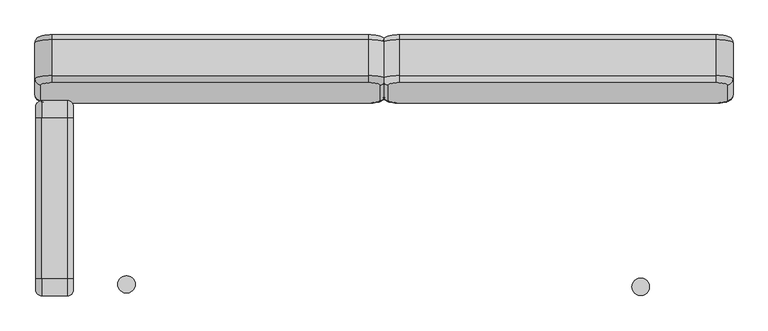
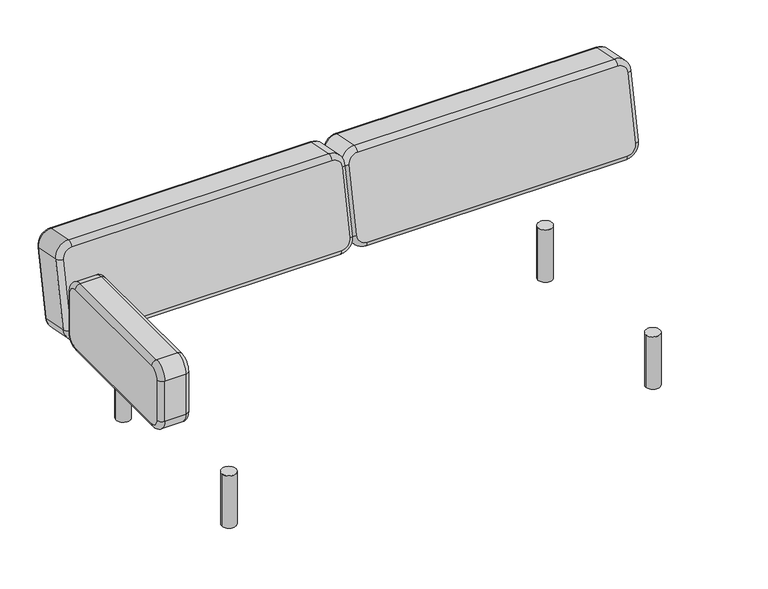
"""IFC4 building model written with IfcOpenShell, lengths in millimetres: furniture geometry, Fredericia - EJ220 Sofa 2 seater 100 - 2062 : Fredericia - EJ220 Sofa 2 seater 100 - 2062."""

from ifc_helpers import new_model, si_unit, point, frame, frame_2d, origin, origin_with_axes, place, context, project, spatial, circle_curve, ellipse_curve, trimmed, segment, composite_curve, outline, extrude, source, transform, mapped, element, save
from ifc_brep_helpers import plane_surface, cylinder_surface, revolved_surface, advanced_brep


def furniture_62b41049(model_context):
    return source(origin(), model_context, "Body", "SolidModel", [
        advanced_brep(
        [(-996.9649592, 110.2227341, 660.8530588), (-996.9649592, 570.2227341, 660.8530588), (-996.9649592, 602.8905541, 628.1852389), (-996.9649592, 602.8905541, 481.6311001), (-996.9649592, 570.2227341, 448.9632801), (-996.9649592, 110.2227341, 448.9632801), (-996.9649592, 77.5549142, 481.6311001), (-996.9649592, 77.5549142, 628.1852389), (-889.3010071, 570.2227341, 660.8530588), (-889.3010071, 110.2227341, 660.8530588), (-889.3010071, 77.5549142, 628.1852389), (-889.3010071, 77.5549142, 481.6311001), (-889.3010071, 110.2227341, 448.9632801), (-889.3010071, 570.2227341, 448.9632801), (-889.3010071, 602.8905541, 481.6311001), (-889.3010071, 602.8905541, 628.1852389), (-906.6443493, 570.2227341, 678.1852389), (-979.6376303, 570.2227341, 678.1852389), (-979.6376303, 110.2227341, 678.1852389), (-906.6443493, 110.2227341, 678.1852389), (-906.6443493, 60.2227341, 628.1852389), (-979.6376303, 60.2227341, 628.1852389), (-979.6376303, 60.2227341, 481.6311001), (-906.6443493, 60.2227341, 481.6311001), (-906.6443493, 110.2227341, 431.6311001), (-979.6376303, 110.2227341, 431.6311001), (-979.6376303, 570.2227341, 431.6311001), (-906.6443493, 570.2227341, 431.6311001), (-906.6443493, 620.2227341, 481.6311001), (-979.6376303, 620.2227341, 481.6311001), (-979.6376303, 620.2227341, 628.1852389), (-906.6443493, 620.2227341, 628.1852389)],
        [
            (0, 1),
            (1, 2, circle_curve(frame((-996.9649592, 570.2227341, 628.1852389), z_axis=(-1.0, 0.0, 0.0), x_axis=(0.0, 1.0, 0.0)), 32.6678199)),
            (2, 3),
            (3, 4, circle_curve(frame((-996.9649592, 570.2227341, 481.6311001), z_axis=(-1.0, 0.0, 0.0), x_axis=(0.0, 0.0, -1.0)), 32.6678199)),
            (4, 5),
            (5, 6, circle_curve(frame((-996.9649592, 110.2227341, 481.6311001), z_axis=(-1.0, 0.0, 0.0), x_axis=(0.0, -1.0, 0.0)), 32.6678199)),
            (6, 7),
            (7, 0, circle_curve(frame((-996.9649592, 110.2227341, 628.1852389), z_axis=(-1.0, 0.0, 0.0), x_axis=(0.0, 0.0, 1.0)), 32.6678199)),
            (8, 9),
            (9, 10, circle_curve(frame((-889.3010071, 110.2227341, 628.1852389), z_axis=(1.0, 0.0, 0.0), x_axis=(0.0, 0.0, 1.0)), 32.6678199)),
            (10, 11),
            (11, 12, circle_curve(frame((-889.3010071, 110.2227341, 481.6311001), z_axis=(1.0, 0.0, 0.0), x_axis=(0.0, -1.0, 0.0)), 32.6678199)),
            (12, 13),
            (13, 14, circle_curve(frame((-889.3010071, 570.2227341, 481.6311001), z_axis=(1.0, 0.0, 0.0), x_axis=(0.0, 0.0, -1.0)), 32.6678199)),
            (14, 15),
            (15, 8, circle_curve(frame((-889.3010071, 570.2227341, 628.1852389), z_axis=(1.0, 0.0, 0.0), x_axis=(0.0, 1.0, 0.0)), 32.6678199)),
            (16, 17),
            (17, 18),
            (18, 19),
            (19, 16),
            (20, 21),
            (21, 22),
            (22, 23),
            (23, 20),
            (24, 25),
            (25, 26),
            (26, 27),
            (27, 24),
            (28, 29),
            (29, 30),
            (30, 31),
            (31, 28),
            (17, 1, circle_curve(frame((-979.6376303, 570.2227341, 660.8530588), z_axis=(0.0, -1.0, 0.0), x_axis=(0.0, 0.0, -1.0)), 17.3321801)),
            (0, 18, circle_curve(frame((-979.6376303, 110.2227341, 660.8530588), z_axis=(0.0, 1.0, 0.0), x_axis=(0.0, 0.0, -1.0)), 17.3321801)),
            (19, 9, circle_curve(frame((-906.6443493, 110.2227341, 660.8530588), z_axis=(0.0, 1.0, 0.0), x_axis=(0.0, 0.0, -1.0)), 17.3321801)),
            (8, 16, circle_curve(frame((-906.6443493, 570.2227341, 660.8530588), z_axis=(0.0, -1.0, 0.0), x_axis=(0.0, 0.0, -1.0)), 17.3321801)),
            (21, 7, circle_curve(frame((-979.6376303, 77.5549142, 628.1852389), z_axis=(0.0, 0.0, -1.0), x_axis=(0.0, 1.0, 0.0)), 17.3321801)),
            (6, 22, circle_curve(frame((-979.6376303, 77.5549142, 481.6311001), z_axis=(0.0, 0.0, 1.0), x_axis=(0.0, 1.0, 0.0)), 17.3321801)),
            (23, 11, circle_curve(frame((-906.6443493, 77.5549142, 481.6311001), z_axis=(0.0, 0.0, 1.0), x_axis=(0.0, 1.0, 0.0)), 17.3321801)),
            (10, 20, circle_curve(frame((-906.6443493, 77.5549142, 628.1852389), z_axis=(0.0, 0.0, -1.0), x_axis=(0.0, 1.0, 0.0)), 17.3321801)),
            (25, 5, circle_curve(frame((-979.6376303, 110.2227341, 448.9632801), z_axis=(0.0, 1.0, 0.0), x_axis=(0.0, 0.0, 1.0)), 17.3321801)),
            (4, 26, circle_curve(frame((-979.6376303, 570.2227341, 448.9632801), z_axis=(0.0, -1.0, 0.0), x_axis=(0.0, 0.0, 1.0)), 17.3321801)),
            (27, 13, circle_curve(frame((-906.6443493, 570.2227341, 448.9632801), z_axis=(0.0, -1.0, 0.0), x_axis=(0.0, 0.0, 1.0)), 17.3321801)),
            (12, 24, circle_curve(frame((-906.6443493, 110.2227341, 448.9632801), z_axis=(0.0, 1.0, 0.0), x_axis=(0.0, 0.0, 1.0)), 17.3321801)),
            (29, 3, circle_curve(frame((-979.6376303, 602.8905541, 481.6311001), z_axis=(0.0, 0.0, 1.0), x_axis=(0.0, -1.0, 0.0)), 17.3321801)),
            (2, 30, circle_curve(frame((-979.6376303, 602.8905541, 628.1852389), z_axis=(0.0, 0.0, -1.0), x_axis=(0.0, -1.0, 0.0)), 17.3321801)),
            (31, 15, circle_curve(frame((-906.6443493, 602.8905541, 628.1852389), z_axis=(0.0, 0.0, -1.0), x_axis=(0.0, -1.0, 0.0)), 17.3321801)),
            (14, 28, circle_curve(frame((-906.6443493, 602.8905541, 481.6311001), z_axis=(0.0, 0.0, 1.0), x_axis=(0.0, -1.0, 0.0)), 17.3321801)),
            (17, 30, circle_curve(frame((-979.6376303, 570.2227341, 628.1852389), z_axis=(-1.0, 0.0, 0.0), x_axis=(0.0, 1.0, 0.0)), 50.0)),
            (16, 31, circle_curve(frame((-906.6443493, 570.2227341, 628.1852389), z_axis=(-1.0, 0.0, 0.0), x_axis=(0.0, 1.0, 0.0)), 50.0)),
            (21, 18, circle_curve(frame((-979.6376303, 110.2227341, 628.1852389), z_axis=(-1.0, 0.0, 0.0), x_axis=(0.0, 0.0, 1.0)), 50.0)),
            (20, 19, circle_curve(frame((-906.6443493, 110.2227341, 628.1852389), z_axis=(-1.0, 0.0, 0.0), x_axis=(0.0, 0.0, 1.0)), 50.0)),
            (25, 22, circle_curve(frame((-979.6376303, 110.2227341, 481.6311001), z_axis=(-1.0, 0.0, 0.0), x_axis=(0.0, -1.0, 0.0)), 50.0)),
            (24, 23, circle_curve(frame((-906.6443493, 110.2227341, 481.6311001), z_axis=(-1.0, 0.0, 0.0), x_axis=(0.0, -1.0, 0.0)), 50.0)),
            (29, 26, circle_curve(frame((-979.6376303, 570.2227341, 481.6311001), z_axis=(-1.0, 0.0, 0.0), x_axis=(0.0, 0.0, -1.0)), 50.0)),
            (28, 27, circle_curve(frame((-906.6443493, 570.2227341, 481.6311001), z_axis=(-1.0, 0.0, 0.0), x_axis=(0.0, 0.0, -1.0)), 50.0)),
        ],
        [
            plane_surface(frame((-996.9649592, 80.2227341, 34.6780204), z_axis=(-1.0, 0.0, 0.0), x_axis=(0.0, 0.0, 1.0))),
            plane_surface(frame((-889.3010071, 80.2227341, 34.6780204), z_axis=(1.0, 0.0, 0.0), x_axis=(0.0, 0.0, -1.0))),
            plane_surface(frame((-979.6376303, 570.2227341, 678.1852389), z_axis=(0.0, 0.0, 1.0), x_axis=(0.0, -1.0, 0.0))),
            plane_surface(frame((-979.6376303, 60.2227341, 628.1852389), z_axis=(0.0, -1.0, 0.0), x_axis=(0.0, 0.0, -1.0))),
            plane_surface(frame((-979.6376303, 110.2227341, 431.6311001), z_axis=(0.0, 0.0, -1.0), x_axis=(0.0, 1.0, 0.0))),
            plane_surface(frame((-979.6376303, 620.2227341, 481.6311001), z_axis=(0.0, 1.0, 0.0), x_axis=(0.0, 0.0, 1.0))),
            cylinder_surface(frame((-979.6376303, 570.2227341, 660.8530588), z_axis=(0.0, 1.0, 0.0), x_axis=(0.0, 0.0, -1.0)), 17.3321801),
            cylinder_surface(frame((-906.6443493, 570.2227341, 660.8530588), z_axis=(0.0, 1.0, 0.0), x_axis=(0.0, 0.0, -1.0)), 17.3321801),
            cylinder_surface(frame((-979.6376303, 77.5549142, 628.1852389), z_axis=(0.0, 0.0, 1.0), x_axis=(0.0, 1.0, 0.0)), 17.3321801),
            cylinder_surface(frame((-906.6443493, 77.5549142, 628.1852389), z_axis=(0.0, 0.0, 1.0), x_axis=(0.0, 1.0, 0.0)), 17.3321801),
            cylinder_surface(frame((-979.6376303, 110.2227341, 448.9632801), z_axis=(0.0, -1.0, 0.0), x_axis=(0.0, 0.0, 1.0)), 17.3321801),
            cylinder_surface(frame((-906.6443493, 110.2227341, 448.9632801), z_axis=(0.0, -1.0, 0.0), x_axis=(0.0, 0.0, 1.0)), 17.3321801),
            cylinder_surface(frame((-979.6376303, 602.8905541, 481.6311001), z_axis=(0.0, 0.0, -1.0), x_axis=(0.0, -1.0, 0.0)), 17.3321801),
            cylinder_surface(frame((-906.6443493, 602.8905541, 481.6311001), z_axis=(0.0, 0.0, -1.0), x_axis=(0.0, -1.0, 0.0)), 17.3321801),
            revolved_surface(trimmed(ellipse_curve(frame((-979.6376303, 602.8905541, 628.1852389), z_axis=(0.0, 0.0, -1.0), x_axis=(0.0, -1.0, 0.0)), 17.3321801, 17.3321801), [point((-996.9698104, 602.8905541, 628.1852389))], [point((-979.6376303, 620.2227341, 628.1852389))], True, "CARTESIAN"), (-812.2479775, 570.2227341, 628.1852389), (1.0, 0.0, 0.0)),
            cylinder_surface(frame((-812.2479775, 570.2227341, 628.1852389), z_axis=(1.0, 0.0, 0.0), x_axis=(0.0, 1.0, 0.0)), 50.0),
            revolved_surface(trimmed(ellipse_curve(frame((-906.6443493, 602.8905541, 628.1852389), z_axis=(0.0, 0.0, -1.0), x_axis=(0.0, -1.0, 0.0)), 17.3321801, 17.3321801), [point((-906.6443493, 620.2227341, 628.1852389))], [point((-889.3121693, 602.8905541, 628.1852389))], True, "CARTESIAN"), (-812.2479775, 570.2227341, 628.1852389), (1.0, 0.0, 0.0)),
            revolved_surface(trimmed(ellipse_curve(frame((-979.6376303, 110.2227341, 660.8530588), z_axis=(0.0, 1.0, 0.0), x_axis=(0.0, 0.0, -1.0)), 17.3321801, 17.3321801), [point((-996.9698104, 110.2227341, 660.8530588))], [point((-979.6376303, 110.2227341, 678.1852389))], True, "CARTESIAN"), (-812.2479775, 110.2227341, 628.1852389), (1.0, 0.0, 0.0)),
            cylinder_surface(frame((-812.2479775, 110.2227341, 628.1852389), z_axis=(1.0, 0.0, 0.0), x_axis=(0.0, 0.0, 1.0)), 50.0),
            revolved_surface(trimmed(ellipse_curve(frame((-906.6443493, 110.2227341, 660.8530588), z_axis=(0.0, 1.0, 0.0), x_axis=(0.0, 0.0, -1.0)), 17.3321801, 17.3321801), [point((-906.6443493, 110.2227341, 678.1852389))], [point((-889.3121693, 110.2227341, 660.8530588))], True, "CARTESIAN"), (-812.2479775, 110.2227341, 628.1852389), (1.0, 0.0, 0.0)),
            revolved_surface(trimmed(ellipse_curve(frame((-979.6376303, 77.5549142, 481.6311001), z_axis=(0.0, 0.0, 1.0), x_axis=(0.0, 1.0, 0.0)), 17.3321801, 17.3321801), [point((-996.9698104, 77.5549142, 481.6311001))], [point((-979.6376303, 60.2227341, 481.6311001))], True, "CARTESIAN"), (-812.2479775, 110.2227341, 481.6311001), (1.0, 0.0, 0.0)),
            cylinder_surface(frame((-812.2479775, 110.2227341, 481.6311001), z_axis=(1.0, 0.0, 0.0), x_axis=(0.0, -1.0, 0.0)), 50.0),
            revolved_surface(trimmed(ellipse_curve(frame((-906.6443493, 77.5549142, 481.6311001), z_axis=(0.0, 0.0, 1.0), x_axis=(0.0, 1.0, 0.0)), 17.3321801, 17.3321801), [point((-906.6443493, 60.2227341, 481.6311001))], [point((-889.3121693, 77.5549142, 481.6311001))], True, "CARTESIAN"), (-812.2479775, 110.2227341, 481.6311001), (1.0, 0.0, 0.0)),
            revolved_surface(trimmed(ellipse_curve(frame((-979.6376303, 570.2227341, 448.9632801), z_axis=(0.0, -1.0, 0.0), x_axis=(0.0, 0.0, 1.0)), 17.3321801, 17.3321801), [point((-996.9698104, 570.2227341, 448.9632801))], [point((-979.6376303, 570.2227341, 431.6311001))], True, "CARTESIAN"), (-812.2479775, 570.2227341, 481.6311001), (1.0, 0.0, 0.0)),
            cylinder_surface(frame((-812.2479775, 570.2227341, 481.6311001), z_axis=(1.0, 0.0, 0.0), x_axis=(0.0, 0.0, -1.0)), 50.0),
            revolved_surface(trimmed(ellipse_curve(frame((-906.6443493, 570.2227341, 448.9632801), z_axis=(0.0, -1.0, 0.0), x_axis=(0.0, 0.0, 1.0)), 17.3321801, 17.3321801), [point((-906.6443493, 570.2227341, 431.6311001))], [point((-889.3121693, 570.2227341, 448.9632801))], True, "CARTESIAN"), (-812.2479775, 570.2227341, 481.6311001), (1.0, 0.0, 0.0)),
        ],
        [
            (0, [[1, 2, 3, 4, 5, 6, 7, 8]]),
            (1, [[9, 10, 11, 12, 13, 14, 15, 16]]),
            (2, [[17, 18, 19, 20]]),
            (3, [[21, 22, 23, 24]]),
            (4, [[25, 26, 27, 28]]),
            (5, [[29, 30, 31, 32]]),
            (6, [[-18, 33, -1, 34]]),
            (7, [[-20, 35, -9, 36]]),
            (8, [[-22, 37, -7, 38]]),
            (9, [[-24, 39, -11, 40]]),
            (10, [[-26, 41, -5, 42]]),
            (11, [[-28, 43, -13, 44]]),
            (12, [[-30, 45, -3, 46]]),
            (13, [[-32, 47, -15, 48]]),
            (14, [[-33, 49, -46, -2]]),
            (15, [[-17, 50, -31, -49]]),
            (16, [[-36, -16, -47, -50]]),
            (17, [[-34, -8, -37, 51]]),
            (18, [[-19, -51, -21, 52]]),
            (19, [[-35, -52, -40, -10]]),
            (20, [[-38, -6, -41, 53]]),
            (21, [[-23, -53, -25, 54]]),
            (22, [[-39, -54, -44, -12]]),
            (23, [[-42, -4, -45, 55]]),
            (24, [[-27, -55, -29, 56]]),
            (25, [[-43, -56, -48, -14]]),
        ],
    ),
        advanced_brep(
        [(982.2998936, 619.8100699, 478.8361951), (982.2998936, 664.9135782, 710.8736296), (949.6320736, 671.1468921, 742.9412497), (45.0, 671.1468921, 742.9412497), (12.3321801, 664.9135782, 710.8736296), (12.3321801, 619.8100699, 478.8361951), (45.0, 613.576756, 446.7685751), (949.6320736, 613.576756, 446.7685751), (982.2998936, 802.1658592, 684.1944888), (982.2998936, 757.062351, 452.1570543), (949.6320736, 750.8290371, 420.0894343), (45.0, 750.8290371, 420.0894343), (12.3321801, 757.062351, 452.1570543), (12.3321801, 802.1658592, 684.1944888), (45.0, 808.3991731, 716.2621088), (949.6320736, 808.3991731, 716.2621088), (999.6320736, 636.819047, 475.5299849), (999.6320736, 740.0486118, 455.4641902), (999.6320736, 785.1521201, 687.5016246), (999.6320736, 681.9225552, 707.5674194), (949.6320736, 691.463005, 756.6487785), (949.6320736, 794.6925699, 736.5829838), (45.0, 794.6925699, 736.5829838), (45.0, 691.463005, 756.6487785), (-5.0, 681.9225552, 707.5674194), (-5.0, 785.1521201, 687.5016246), (-5.0, 740.0486118, 455.4641902), (-5.0, 636.819047, 475.5299849), (45.0, 627.2785972, 426.4486258), (45.0, 730.5081621, 406.382831), (949.6320736, 730.5081621, 406.382831), (949.6320736, 627.2785972, 426.4486258)],
        [
            (0, 1),
            (1, 2, circle_curve(frame((949.6320736, 664.9135782, 710.8736296), z_axis=(0.0, -0.9816271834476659, 0.1908089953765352), x_axis=(1.0, 0.0, 0.0)), 32.6678199)),
            (2, 3),
            (3, 4, circle_curve(frame((45.0, 664.9135782, 710.8736296), z_axis=(0.0, -0.9816271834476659, 0.1908089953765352), x_axis=(0.0, 0.1908089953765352, 0.9816271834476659)), 32.6678199)),
            (4, 5),
            (5, 6, circle_curve(frame((45.0, 619.8100699, 478.8361951), z_axis=(0.0, -0.9816271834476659, 0.1908089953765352), x_axis=(-1.0, 0.0, 0.0)), 32.6678199)),
            (6, 7),
            (7, 0, circle_curve(frame((949.6320736, 619.8100699, 478.8361951), z_axis=(0.0, -0.9816271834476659, 0.1908089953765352), x_axis=(0.0, -0.1908089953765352, -0.9816271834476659)), 32.6678199)),
            (8, 9),
            (9, 10, circle_curve(frame((949.6320736, 757.062351, 452.1570543), z_axis=(0.0, 0.9816271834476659, -0.1908089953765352), x_axis=(0.0, -0.1908089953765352, -0.9816271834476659)), 32.6678199)),
            (10, 11),
            (11, 12, circle_curve(frame((45.0, 757.062351, 452.1570543), z_axis=(0.0, 0.9816271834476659, -0.1908089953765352), x_axis=(-1.0, 0.0, 0.0)), 32.6678199)),
            (12, 13),
            (13, 14, circle_curve(frame((45.0, 802.1658592, 684.1944888), z_axis=(0.0, 0.9816271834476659, -0.1908089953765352), x_axis=(0.0, 0.1908089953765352, 0.9816271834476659)), 32.6678199)),
            (14, 15),
            (15, 8, circle_curve(frame((949.6320736, 802.1658592, 684.1944888), z_axis=(0.0, 0.9816271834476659, -0.1908089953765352), x_axis=(1.0, 0.0, 0.0)), 32.6678199)),
            (16, 17),
            (17, 18),
            (18, 19),
            (19, 16),
            (20, 21),
            (21, 22),
            (22, 23),
            (23, 20),
            (24, 25),
            (25, 26),
            (26, 27),
            (27, 24),
            (28, 29),
            (29, 30),
            (30, 31),
            (31, 28),
            (19, 1, circle_curve(frame((982.2998936, 681.9225552, 707.5674194), z_axis=(0.0, -0.19080899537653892, -0.9816271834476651), x_axis=(-1.0, 0.0, 0.0)), 17.3321801)),
            (0, 16, circle_curve(frame((982.2998936, 636.819047, 475.5299849), z_axis=(0.0, 0.19080899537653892, 0.9816271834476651), x_axis=(-1.0, 0.0, 0.0)), 17.3321801)),
            (17, 9, circle_curve(frame((982.2998936, 740.0486118, 455.4641902), z_axis=(0.0, 0.19080899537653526, 0.981627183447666), x_axis=(-1.0, 0.0, 0.0)), 17.3321801)),
            (8, 18, circle_curve(frame((982.2998936, 785.1521201, 687.5016246), z_axis=(0.0, -0.19080899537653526, -0.981627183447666), x_axis=(-1.0, 0.0, 0.0)), 17.3321801)),
            (23, 3, circle_curve(frame((45.0, 688.1558691, 739.6350394), z_axis=(1.0, 0.0, 0.0), x_axis=(0.0, -0.1908089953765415, -0.9816271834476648)), 17.3321801)),
            (2, 20, circle_curve(frame((949.6320736, 688.1558691, 739.6350394), z_axis=(-1.0, 0.0, 0.0), x_axis=(0.0, -0.1908089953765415, -0.9816271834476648)), 17.3321801)),
            (21, 15, circle_curve(frame((949.6320736, 791.385434, 719.5692447), z_axis=(-1.0, 0.0, 0.0), x_axis=(0.0, -0.1908089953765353, -0.9816271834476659)), 17.3321801)),
            (14, 22, circle_curve(frame((45.0, 791.385434, 719.5692447), z_axis=(1.0, 0.0, 0.0), x_axis=(0.0, -0.1908089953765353, -0.9816271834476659)), 17.3321801)),
            (27, 5, circle_curve(frame((12.3321801, 636.819047, 475.5299849), z_axis=(0.0, 0.19080899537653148, 0.9816271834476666), x_axis=(1.0, 0.0, 0.0)), 17.3321801)),
            (4, 24, circle_curve(frame((12.3321801, 681.9225552, 707.5674194), z_axis=(0.0, -0.19080899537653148, -0.9816271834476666), x_axis=(1.0, 0.0, 0.0)), 17.3321801)),
            (25, 13, circle_curve(frame((12.3321801, 785.1521201, 687.5016246), z_axis=(0.0, -0.1908089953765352, -0.9816271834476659), x_axis=(1.0, 0.0, 0.0)), 17.3321801)),
            (12, 26, circle_curve(frame((12.3321801, 740.0486118, 455.4641902), z_axis=(0.0, 0.1908089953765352, 0.9816271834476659), x_axis=(1.0, 0.0, 0.0)), 17.3321801)),
            (31, 7, circle_curve(frame((949.6320736, 630.585733, 443.4623649), z_axis=(-1.0, 0.0, 0.0), x_axis=(0.0, 0.19080899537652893, 0.9816271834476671)), 17.3321801)),
            (6, 28, circle_curve(frame((45.0, 630.585733, 443.4623649), z_axis=(1.0, 0.0, 0.0), x_axis=(0.0, 0.19080899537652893, 0.9816271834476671)), 17.3321801)),
            (29, 11, circle_curve(frame((45.0, 733.8152979, 423.3965701), z_axis=(1.0, 0.0, 0.0), x_axis=(0.0, 0.1908089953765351, 0.9816271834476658)), 17.3321801)),
            (10, 30, circle_curve(frame((949.6320736, 733.8152979, 423.3965701), z_axis=(-1.0, 0.0, 0.0), x_axis=(0.0, 0.1908089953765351, 0.9816271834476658)), 17.3321801)),
            (31, 16, circle_curve(frame((949.6320736, 636.819047, 475.5299849), z_axis=(0.0, -0.9816271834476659, 0.1908089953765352), x_axis=(0.0, -0.1908089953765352, -0.9816271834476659)), 50.0)),
            (30, 17, circle_curve(frame((949.6320736, 740.0486118, 455.4641902), z_axis=(0.0, -0.9816271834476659, 0.1908089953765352), x_axis=(0.0, -0.1908089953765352, -0.9816271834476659)), 50.0)),
            (19, 20, circle_curve(frame((949.6320736, 681.9225552, 707.5674194), z_axis=(0.0, -0.9816271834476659, 0.1908089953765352), x_axis=(1.0, 0.0, 0.0)), 50.0)),
            (18, 21, circle_curve(frame((949.6320736, 785.1521201, 687.5016246), z_axis=(0.0, -0.9816271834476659, 0.1908089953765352), x_axis=(1.0, 0.0, 0.0)), 50.0)),
            (23, 24, circle_curve(frame((45.0, 681.9225552, 707.5674194), z_axis=(0.0, -0.9816271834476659, 0.1908089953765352), x_axis=(0.0, 0.1908089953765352, 0.9816271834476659)), 50.0)),
            (22, 25, circle_curve(frame((45.0, 785.1521201, 687.5016246), z_axis=(0.0, -0.9816271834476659, 0.1908089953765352), x_axis=(0.0, 0.1908089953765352, 0.9816271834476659)), 50.0)),
            (27, 28, circle_curve(frame((45.0, 636.819047, 475.5299849), z_axis=(0.0, -0.9816271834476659, 0.1908089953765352), x_axis=(-1.0, 0.0, 0.0)), 50.0)),
            (26, 29, circle_curve(frame((45.0, 740.0486118, 455.4641902), z_axis=(0.0, -0.9816271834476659, 0.1908089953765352), x_axis=(-1.0, 0.0, 0.0)), 50.0)),
        ],
        [
            plane_surface(frame((919.6320736, 664.9135782, 710.8736296), z_axis=(0.0, -0.9816271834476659, 0.19080899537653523), x_axis=(0.0, -0.19080899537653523, -0.9816271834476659))),
            plane_surface(frame((919.6320736, 802.1658592, 684.1944888), z_axis=(0.0, 0.9816271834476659, -0.19080899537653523), x_axis=(0.0, 0.19080899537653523, 0.9816271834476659))),
            plane_surface(frame((999.6320736, 740.0486118, 455.4641902), z_axis=(1.0, 0.0, 0.0), x_axis=(0.0, 0.1908089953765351, 0.9816271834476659))),
            plane_surface(frame((949.6320736, 794.6925699, 736.5829838), z_axis=(0.0, 0.19080899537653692, 0.9816271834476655), x_axis=(-1.0, 0.0, 0.0))),
            plane_surface(frame((-5.0, 785.1521201, 687.5016246), z_axis=(-1.0000000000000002, 0.0, 0.0), x_axis=(0.0, -0.19080899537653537, -0.9816271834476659))),
            plane_surface(frame((45.0, 730.5081621, 406.382831), z_axis=(0.0, -0.19080899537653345, -0.9816271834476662), x_axis=(1.0, 0.0, 0.0))),
            cylinder_surface(frame((982.2998936, 636.819047, 475.5299849), z_axis=(0.0, -0.19080899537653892, -0.9816271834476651), x_axis=(-1.0, 0.0, 0.0)), 17.3321801),
            cylinder_surface(frame((982.2998936, 740.0486118, 455.4641902), z_axis=(0.0, -0.1908089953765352, -0.9816271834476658), x_axis=(-1.0, 0.0, 0.0)), 17.3321801),
            cylinder_surface(frame((949.6320736, 688.1558691, 739.6350394), z_axis=(1.0000000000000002, 0.0, 0.0), x_axis=(0.0, -0.1908089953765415, -0.9816271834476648)), 17.3321801),
            cylinder_surface(frame((949.6320736, 791.385434, 719.5692447), z_axis=(1.0000000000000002, 0.0, 0.0), x_axis=(0.0, -0.1908089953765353, -0.9816271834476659)), 17.3321801),
            cylinder_surface(frame((12.3321801, 681.9225552, 707.5674194), z_axis=(0.0, 0.19080899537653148, 0.9816271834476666), x_axis=(1.0, 0.0, 0.0)), 17.3321801),
            cylinder_surface(frame((12.3321801, 785.1521201, 687.5016246), z_axis=(0.0, 0.1908089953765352, 0.9816271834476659), x_axis=(1.0, 0.0, 0.0)), 17.3321801),
            cylinder_surface(frame((45.0, 630.585733, 443.4623649), z_axis=(-1.0000000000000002, 0.0, 0.0), x_axis=(0.0, 0.19080899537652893, 0.9816271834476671)), 17.3321801),
            cylinder_surface(frame((45.0, 733.8152979, 423.3965701), z_axis=(-0.9999999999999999, 0.0, 0.0), x_axis=(0.0, 0.1908089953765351, 0.9816271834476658)), 17.3321801),
            revolved_surface(trimmed(ellipse_curve(frame((949.6320736, 630.585733, 443.4623649), z_axis=(-1.0000000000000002, 0.0, 0.0), x_axis=(0.0, 0.19080899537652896, 0.9816271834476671)), 17.3321801, 17.3321801), [point((949.6320736, 627.2785972, 426.4486258))], [point((949.6320736, 613.5719939, 446.7695007))], True, "CARTESIAN"), (949.6320736, 801.1332803, 443.5905334), (0.0, -0.9816271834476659, 0.1908089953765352)),
            cylinder_surface(frame((949.6320736, 801.1332803, 443.5905334), z_axis=(0.0, -0.9816271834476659, 0.1908089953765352), x_axis=(0.0, -0.1908089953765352, -0.9816271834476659)), 50.0),
            revolved_surface(trimmed(ellipse_curve(frame((949.6320736, 733.8152979, 423.3965701), z_axis=(-1.0000000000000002, 0.0, 0.0), x_axis=(0.0, 0.19080899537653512, 0.9816271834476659)), 17.3321801, 17.3321801), [point((949.6320736, 750.8290371, 420.0894343))], [point((949.6320736, 730.5081621, 406.382831))], True, "CARTESIAN"), (949.6320736, 801.1332803, 443.5905334), (0.0, -0.9816271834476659, 0.1908089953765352)),
            revolved_surface(trimmed(ellipse_curve(frame((982.2998936, 681.9225552, 707.5674194), z_axis=(0.0, -0.19080899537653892, -0.9816271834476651), x_axis=(-1.0, 0.0, 0.0)), 17.3321801, 17.3321801), [point((999.6320736, 681.9225552, 707.5674194))], [point((982.2998936, 664.9088161, 710.8745552))], True, "CARTESIAN"), (949.6320736, 846.2367886, 675.6279679), (0.0, -0.9816271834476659, 0.1908089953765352)),
            cylinder_surface(frame((949.6320736, 846.2367886, 675.6279679), z_axis=(0.0, -0.9816271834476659, 0.1908089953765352), x_axis=(1.0, 0.0, 0.0)), 50.0),
            revolved_surface(trimmed(ellipse_curve(frame((982.2998936, 785.1521201, 687.5016246), z_axis=(0.0, -0.19080899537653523, -0.9816271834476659), x_axis=(-1.0, 0.0, 0.0)), 17.3321801, 17.3321801), [point((982.2998936, 802.1658592, 684.1944888))], [point((999.6320736, 785.1521201, 687.5016246))], True, "CARTESIAN"), (949.6320736, 846.2367886, 675.6279679), (0.0, -0.9816271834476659, 0.1908089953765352)),
            revolved_surface(trimmed(ellipse_curve(frame((45.0, 688.1558691, 739.6350394), z_axis=(1.0000000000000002, 0.0, 0.0), x_axis=(0.0, -0.19080899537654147, -0.9816271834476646)), 17.3321801, 17.3321801), [point((45.0, 691.463005, 756.6487785))], [point((45.0, 671.14213, 742.9421753))], True, "CARTESIAN"), (45.0, 846.2367886, 675.6279679), (0.0, -0.9816271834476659, 0.1908089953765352)),
            cylinder_surface(frame((45.0, 846.2367886, 675.6279679), z_axis=(0.0, -0.9816271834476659, 0.1908089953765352), x_axis=(0.0, 0.1908089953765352, 0.9816271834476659)), 50.0),
            revolved_surface(trimmed(ellipse_curve(frame((45.0, 791.385434, 719.5692447), z_axis=(1.0000000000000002, 0.0, 0.0), x_axis=(0.0, -0.19080899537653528, -0.9816271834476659)), 17.3321801, 17.3321801), [point((45.0, 808.3991731, 716.2621088))], [point((45.0, 794.6925699, 736.5829838))], True, "CARTESIAN"), (45.0, 846.2367886, 675.6279679), (0.0, -0.9816271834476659, 0.1908089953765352)),
            revolved_surface(trimmed(ellipse_curve(frame((12.3321801, 636.819047, 475.5299849), z_axis=(0.0, 0.19080899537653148, 0.9816271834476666), x_axis=(1.0, 0.0, 0.0)), 17.3321801, 17.3321801), [point((-5.0, 636.819047, 475.5299849))], [point((12.3321801, 619.8053078, 478.8371208))], True, "CARTESIAN"), (45.0, 801.1332803, 443.5905334), (0.0, -0.9816271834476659, 0.1908089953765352)),
            cylinder_surface(frame((45.0, 801.1332803, 443.5905334), z_axis=(0.0, -0.9816271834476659, 0.1908089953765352), x_axis=(-1.0, 0.0, 0.0)), 50.0),
            revolved_surface(trimmed(ellipse_curve(frame((12.3321801, 740.0486118, 455.4641902), z_axis=(0.0, 0.1908089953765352, 0.9816271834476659), x_axis=(1.0, 0.0, 0.0)), 17.3321801, 17.3321801), [point((12.3321801, 757.062351, 452.1570543))], [point((-5.0, 740.0486118, 455.4641902))], True, "CARTESIAN"), (45.0, 801.1332803, 443.5905334), (0.0, -0.9816271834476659, 0.1908089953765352)),
        ],
        [
            (0, [[1, 2, 3, 4, 5, 6, 7, 8]]),
            (1, [[9, 10, 11, 12, 13, 14, 15, 16]]),
            (2, [[17, 18, 19, 20]]),
            (3, [[21, 22, 23, 24]]),
            (4, [[25, 26, 27, 28]]),
            (5, [[29, 30, 31, 32]]),
            (6, [[-20, 33, -1, 34]]),
            (7, [[-18, 35, -9, 36]]),
            (8, [[-24, 37, -3, 38]]),
            (9, [[-22, 39, -15, 40]]),
            (10, [[-28, 41, -5, 42]]),
            (11, [[-26, 43, -13, 44]]),
            (12, [[-32, 45, -7, 46]]),
            (13, [[-30, 47, -11, 48]]),
            (14, [[-34, -8, -45, 49]]),
            (15, [[-17, -49, -31, 50]]),
            (16, [[-35, -50, -48, -10]]),
            (17, [[-33, 51, -38, -2]]),
            (18, [[-19, 52, -21, -51]]),
            (19, [[-36, -16, -39, -52]]),
            (20, [[-37, 53, -42, -4]]),
            (21, [[-23, 54, -25, -53]]),
            (22, [[-40, -14, -43, -54]]),
            (23, [[-41, 55, -46, -6]]),
            (24, [[-27, 56, -29, -55]]),
            (25, [[-44, -12, -47, -56]]),
        ],
    ),
        advanced_brep(
        [(-982.2998936, 664.9135782, 710.8736296), (-982.2998936, 619.8100699, 478.8361951), (-949.6320736, 613.576756, 446.7685751), (-45.0, 613.576756, 446.7685751), (-12.3321801, 619.8100699, 478.8361951), (-12.3321801, 664.9135782, 710.8736296), (-45.0, 671.1468921, 742.9412497), (-949.6320736, 671.1468921, 742.9412497), (-982.2998936, 757.062351, 452.1570543), (-982.2998936, 802.1658592, 684.1944888), (-949.6320736, 808.3991731, 716.2621088), (-45.0, 808.3991731, 716.2621088), (-12.3321801, 802.1658592, 684.1944888), (-12.3321801, 757.062351, 452.1570543), (-45.0, 750.8290371, 420.0894343), (-949.6320736, 750.8290371, 420.0894343), (-999.6320736, 740.0486118, 455.4641902), (-999.6320736, 636.819047, 475.5299849), (-999.6320736, 681.9225552, 707.5674194), (-999.6320736, 785.1521201, 687.5016246), (-949.6320736, 794.6925699, 736.5829838), (-949.6320736, 691.463005, 756.6487785), (-45.0, 691.463005, 756.6487785), (-45.0, 794.6925699, 736.5829838), (5.0, 785.1521201, 687.5016246), (5.0, 681.9225552, 707.5674194), (5.0, 636.819047, 475.5299849), (5.0, 740.0486118, 455.4641902), (-45.0, 730.5081621, 406.382831), (-45.0, 627.2785972, 426.4486258), (-949.6320736, 627.2785972, 426.4486258), (-949.6320736, 730.5081621, 406.382831)],
        [
            (0, 1),
            (1, 2, circle_curve(frame((-949.6320736, 619.8100699, 478.8361951), z_axis=(0.0, -0.9816271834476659, 0.1908089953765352), x_axis=(0.0, -0.1908089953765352, -0.9816271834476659)), 32.6678199)),
            (2, 3),
            (3, 4, circle_curve(frame((-45.0, 619.8100699, 478.8361951), z_axis=(0.0, -0.9816271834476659, 0.1908089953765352), x_axis=(1.0, 0.0, 0.0)), 32.6678199)),
            (4, 5),
            (5, 6, circle_curve(frame((-45.0, 664.9135782, 710.8736296), z_axis=(0.0, -0.9816271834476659, 0.1908089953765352), x_axis=(0.0, 0.1908089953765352, 0.9816271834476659)), 32.6678199)),
            (6, 7),
            (7, 0, circle_curve(frame((-949.6320736, 664.9135782, 710.8736296), z_axis=(0.0, -0.9816271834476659, 0.1908089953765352), x_axis=(-1.0, 0.0, 0.0)), 32.6678199)),
            (8, 9),
            (9, 10, circle_curve(frame((-949.6320736, 802.1658592, 684.1944888), z_axis=(0.0, 0.9816271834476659, -0.1908089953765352), x_axis=(-1.0, 0.0, 0.0)), 32.6678199)),
            (10, 11),
            (11, 12, circle_curve(frame((-45.0, 802.1658592, 684.1944888), z_axis=(0.0, 0.9816271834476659, -0.1908089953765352), x_axis=(0.0, 0.1908089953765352, 0.9816271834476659)), 32.6678199)),
            (12, 13),
            (13, 14, circle_curve(frame((-45.0, 757.062351, 452.1570543), z_axis=(0.0, 0.9816271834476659, -0.1908089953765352), x_axis=(1.0, 0.0, 0.0)), 32.6678199)),
            (14, 15),
            (15, 8, circle_curve(frame((-949.6320736, 757.062351, 452.1570543), z_axis=(0.0, 0.9816271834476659, -0.1908089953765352), x_axis=(0.0, -0.1908089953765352, -0.9816271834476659)), 32.6678199)),
            (16, 17),
            (17, 18),
            (18, 19),
            (19, 16),
            (20, 21),
            (21, 22),
            (22, 23),
            (23, 20),
            (24, 25),
            (25, 26),
            (26, 27),
            (27, 24),
            (28, 29),
            (29, 30),
            (30, 31),
            (31, 28),
            (17, 1, circle_curve(frame((-982.2998936, 636.819047, 475.5299849), z_axis=(0.0, 0.19080899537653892, 0.9816271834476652), x_axis=(1.0, 0.0, 0.0)), 17.3321801)),
            (0, 18, circle_curve(frame((-982.2998936, 681.9225552, 707.5674194), z_axis=(0.0, -0.19080899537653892, -0.9816271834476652), x_axis=(1.0, 0.0, 0.0)), 17.3321801)),
            (19, 9, circle_curve(frame((-982.2998936, 785.1521201, 687.5016246), z_axis=(0.0, -0.19080899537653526, -0.981627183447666), x_axis=(1.0, 0.0, 0.0)), 17.3321801)),
            (8, 16, circle_curve(frame((-982.2998936, 740.0486118, 455.4641902), z_axis=(0.0, 0.19080899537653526, 0.981627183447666), x_axis=(1.0, 0.0, 0.0)), 17.3321801)),
            (21, 7, circle_curve(frame((-949.6320736, 688.1558691, 739.6350394), z_axis=(1.0, 0.0, 0.0), x_axis=(0.0, -0.19080899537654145, -0.9816271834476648)), 17.3321801)),
            (6, 22, circle_curve(frame((-45.0, 688.1558691, 739.6350394), z_axis=(-1.0, 0.0, 0.0), x_axis=(0.0, -0.19080899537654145, -0.9816271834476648)), 17.3321801)),
            (23, 11, circle_curve(frame((-45.0, 791.385434, 719.5692447), z_axis=(-1.0, 0.0, 0.0), x_axis=(0.0, -0.19080899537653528, -0.9816271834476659)), 17.3321801)),
            (10, 20, circle_curve(frame((-949.6320736, 791.385434, 719.5692447), z_axis=(1.0, 0.0, 0.0), x_axis=(0.0, -0.19080899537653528, -0.9816271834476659)), 17.3321801)),
            (25, 5, circle_curve(frame((-12.3321801, 681.9225552, 707.5674194), z_axis=(0.0, -0.19080899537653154, -0.9816271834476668), x_axis=(-1.0, 0.0, 0.0)), 17.3321801)),
            (4, 26, circle_curve(frame((-12.3321801, 636.819047, 475.5299849), z_axis=(0.0, 0.19080899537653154, 0.9816271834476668), x_axis=(-1.0, 0.0, 0.0)), 17.3321801)),
            (27, 13, circle_curve(frame((-12.3321801, 740.0486118, 455.4641902), z_axis=(0.0, 0.1908089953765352, 0.981627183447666), x_axis=(-1.0, 0.0, 0.0)), 17.3321801)),
            (12, 24, circle_curve(frame((-12.3321801, 785.1521201, 687.5016246), z_axis=(0.0, -0.1908089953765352, -0.981627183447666), x_axis=(-1.0, 0.0, 0.0)), 17.3321801)),
            (29, 3, circle_curve(frame((-45.0, 630.585733, 443.4623649), z_axis=(-1.0, 0.0, 0.0), x_axis=(0.0, 0.19080899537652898, 0.9816271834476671)), 17.3321801)),
            (2, 30, circle_curve(frame((-949.6320736, 630.585733, 443.4623649), z_axis=(1.0, 0.0, 0.0), x_axis=(0.0, 0.19080899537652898, 0.9816271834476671)), 17.3321801)),
            (31, 15, circle_curve(frame((-949.6320736, 733.8152979, 423.3965701), z_axis=(1.0, 0.0, 0.0), x_axis=(0.0, 0.19080899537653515, 0.9816271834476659)), 17.3321801)),
            (14, 28, circle_curve(frame((-45.0, 733.8152979, 423.3965701), z_axis=(-1.0, 0.0, 0.0), x_axis=(0.0, 0.19080899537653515, 0.9816271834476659)), 17.3321801)),
            (17, 30, circle_curve(frame((-949.6320736, 636.819047, 475.5299849), z_axis=(0.0, -0.9816271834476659, 0.1908089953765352), x_axis=(0.0, -0.1908089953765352, -0.9816271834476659)), 50.0)),
            (16, 31, circle_curve(frame((-949.6320736, 740.0486118, 455.4641902), z_axis=(0.0, -0.9816271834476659, 0.1908089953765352), x_axis=(0.0, -0.1908089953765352, -0.9816271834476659)), 50.0)),
            (21, 18, circle_curve(frame((-949.6320736, 681.9225552, 707.5674194), z_axis=(0.0, -0.9816271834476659, 0.1908089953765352), x_axis=(-1.0, 0.0, 0.0)), 50.0)),
            (20, 19, circle_curve(frame((-949.6320736, 785.1521201, 687.5016246), z_axis=(0.0, -0.9816271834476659, 0.1908089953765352), x_axis=(-1.0, 0.0, 0.0)), 50.0)),
            (25, 22, circle_curve(frame((-45.0, 681.9225552, 707.5674194), z_axis=(0.0, -0.9816271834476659, 0.1908089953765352), x_axis=(0.0, 0.1908089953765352, 0.9816271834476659)), 50.0)),
            (24, 23, circle_curve(frame((-45.0, 785.1521201, 687.5016246), z_axis=(0.0, -0.9816271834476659, 0.1908089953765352), x_axis=(0.0, 0.1908089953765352, 0.9816271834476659)), 50.0)),
            (29, 26, circle_curve(frame((-45.0, 636.819047, 475.5299849), z_axis=(0.0, -0.9816271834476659, 0.1908089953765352), x_axis=(1.0, 0.0, 0.0)), 50.0)),
            (28, 27, circle_curve(frame((-45.0, 740.0486118, 455.4641902), z_axis=(0.0, -0.9816271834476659, 0.1908089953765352), x_axis=(1.0, 0.0, 0.0)), 50.0)),
        ],
        [
            plane_surface(frame((401.9530797, 670.637848, 740.3224451), z_axis=(0.0, -0.9816271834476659, 0.1908089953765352), x_axis=(-1.0, 0.0, 0.0))),
            plane_surface(frame((401.9530797, 807.8901291, 713.6433043), z_axis=(0.0, 0.9816271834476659, -0.1908089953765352), x_axis=(1.0, 0.0, 0.0))),
            plane_surface(frame((-999.6320736, 636.819047, 475.5299849), z_axis=(-1.0000000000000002, 0.0, 0.0), x_axis=(0.0, 0.19080899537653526, 0.9816271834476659))),
            plane_surface(frame((-949.6320736, 691.463005, 756.6487785), z_axis=(0.0, 0.19080899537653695, 0.9816271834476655), x_axis=(1.0, 0.0, 0.0))),
            plane_surface(frame((5.0, 681.9225552, 707.5674194), z_axis=(1.0, 0.0, 0.0), x_axis=(0.0, -0.1908089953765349, -0.9816271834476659))),
            plane_surface(frame((-45.0, 627.2785972, 426.4486258), z_axis=(0.0, -0.19080899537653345, -0.9816271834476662), x_axis=(-1.0, 0.0, 0.0))),
            cylinder_surface(frame((-982.2998936, 636.819047, 475.5299849), z_axis=(0.0, -0.19080899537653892, -0.9816271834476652), x_axis=(1.0, 0.0, 0.0)), 17.3321801),
            cylinder_surface(frame((-982.2998936, 740.0486118, 455.4641902), z_axis=(0.0, -0.1908089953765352, -0.9816271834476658), x_axis=(1.0, 0.0, 0.0)), 17.3321801),
            cylinder_surface(frame((-949.6320736, 688.1558691, 739.6350394), z_axis=(-1.0000000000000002, 0.0, 0.0), x_axis=(0.0, -0.19080899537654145, -0.9816271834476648)), 17.3321801),
            cylinder_surface(frame((-949.6320736, 791.385434, 719.5692447), z_axis=(-1.0000000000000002, 0.0, 0.0), x_axis=(0.0, -0.19080899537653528, -0.9816271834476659)), 17.3321801),
            cylinder_surface(frame((-12.3321801, 681.9225552, 707.5674194), z_axis=(0.0, 0.19080899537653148, 0.9816271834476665), x_axis=(-1.0, 0.0, 0.0)), 17.3321801),
            cylinder_surface(frame((-12.3321801, 785.1521201, 687.5016246), z_axis=(0.0, 0.19080899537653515, 0.9816271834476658), x_axis=(-1.0, 0.0, 0.0)), 17.3321801),
            cylinder_surface(frame((-45.0, 630.585733, 443.4623649), z_axis=(1.0, 0.0, 0.0), x_axis=(0.0, 0.19080899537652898, 0.9816271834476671)), 17.3321801),
            cylinder_surface(frame((-45.0, 733.8152979, 423.3965701), z_axis=(1.0, 0.0, 0.0), x_axis=(0.0, 0.19080899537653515, 0.9816271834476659)), 17.3321801),
            revolved_surface(trimmed(ellipse_curve(frame((-949.6320736, 630.585733, 443.4623649), z_axis=(1.0000000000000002, 0.0, 0.0), x_axis=(0.0, 0.19080899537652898, 0.9816271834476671)), 17.3321801, 17.3321801), [point((-949.6320736, 613.5719939, 446.7695007))], [point((-949.6320736, 627.2785972, 426.4486258))], True, "CARTESIAN"), (-949.6320736, 801.1332803, 443.5905334), (0.0, 0.9816271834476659, -0.1908089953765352)),
            cylinder_surface(frame((-949.6320736, 801.1332803, 443.5905334), z_axis=(0.0, 0.9816271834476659, -0.1908089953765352), x_axis=(0.0, -0.1908089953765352, -0.9816271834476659)), 50.0),
            revolved_surface(trimmed(ellipse_curve(frame((-949.6320736, 733.8152979, 423.3965701), z_axis=(1.0000000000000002, 0.0, 0.0), x_axis=(0.0, 0.19080899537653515, 0.9816271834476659)), 17.3321801, 17.3321801), [point((-949.6320736, 730.5081621, 406.382831))], [point((-949.6320736, 750.8290371, 420.0894343))], True, "CARTESIAN"), (-949.6320736, 801.1332803, 443.5905334), (0.0, 0.9816271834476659, -0.1908089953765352)),
            revolved_surface(trimmed(ellipse_curve(frame((-982.2998936, 681.9225552, 707.5674194), z_axis=(0.0, -0.19080899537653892, -0.9816271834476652), x_axis=(1.0, 0.0, 0.0)), 17.3321801, 17.3321801), [point((-982.2998936, 664.9088161, 710.8745552))], [point((-999.6320736, 681.9225552, 707.5674194))], True, "CARTESIAN"), (-949.6320736, 846.2367886, 675.6279679), (0.0, 0.9816271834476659, -0.1908089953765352)),
            cylinder_surface(frame((-949.6320736, 846.2367886, 675.6279679), z_axis=(0.0, 0.9816271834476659, -0.1908089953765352), x_axis=(-1.0, 0.0, 0.0)), 50.0),
            revolved_surface(trimmed(ellipse_curve(frame((-982.2998936, 785.1521201, 687.5016246), z_axis=(0.0, -0.19080899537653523, -0.9816271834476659), x_axis=(1.0, 0.0, 0.0)), 17.3321801, 17.3321801), [point((-999.6320736, 785.1521201, 687.5016246))], [point((-982.2998936, 802.1658592, 684.1944888))], True, "CARTESIAN"), (-949.6320736, 846.2367886, 675.6279679), (0.0, 0.9816271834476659, -0.1908089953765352)),
            revolved_surface(trimmed(ellipse_curve(frame((-45.0, 688.1558691, 739.6350394), z_axis=(-1.0000000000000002, 0.0, 0.0), x_axis=(0.0, -0.19080899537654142, -0.9816271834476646)), 17.3321801, 17.3321801), [point((-45.0, 671.14213, 742.9421753))], [point((-45.0, 691.463005, 756.6487785))], True, "CARTESIAN"), (-45.0, 846.2367886, 675.6279679), (0.0, 0.9816271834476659, -0.1908089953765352)),
            cylinder_surface(frame((-45.0, 846.2367886, 675.6279679), z_axis=(0.0, 0.9816271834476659, -0.1908089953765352), x_axis=(0.0, 0.1908089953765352, 0.9816271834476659)), 50.0),
            revolved_surface(trimmed(ellipse_curve(frame((-45.0, 791.385434, 719.5692447), z_axis=(-1.0000000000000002, 0.0, 0.0), x_axis=(0.0, -0.19080899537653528, -0.9816271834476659)), 17.3321801, 17.3321801), [point((-45.0, 794.6925699, 736.5829838))], [point((-45.0, 808.3991731, 716.2621088))], True, "CARTESIAN"), (-45.0, 846.2367886, 675.6279679), (0.0, 0.9816271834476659, -0.1908089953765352)),
            revolved_surface(trimmed(ellipse_curve(frame((-12.3321801, 636.819047, 475.5299849), z_axis=(0.0, 0.19080899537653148, 0.9816271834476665), x_axis=(-1.0, 0.0, 0.0)), 17.3321801, 17.3321801), [point((-12.3321801, 619.8053078, 478.8371208))], [point((5.0, 636.819047, 475.5299849))], True, "CARTESIAN"), (-45.0, 801.1332803, 443.5905334), (0.0, 0.9816271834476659, -0.1908089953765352)),
            cylinder_surface(frame((-45.0, 801.1332803, 443.5905334), z_axis=(0.0, 0.9816271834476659, -0.1908089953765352), x_axis=(1.0, 0.0, 0.0)), 50.0),
            revolved_surface(trimmed(ellipse_curve(frame((-12.3321801, 740.0486118, 455.4641902), z_axis=(0.0, 0.19080899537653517, 0.9816271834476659), x_axis=(-1.0, 0.0, 0.0)), 17.3321801, 17.3321801), [point((5.0, 740.0486118, 455.4641902))], [point((-12.3321801, 757.062351, 452.1570543))], True, "CARTESIAN"), (-45.0, 801.1332803, 443.5905334), (0.0, 0.9816271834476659, -0.1908089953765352)),
        ],
        [
            (0, [[1, 2, 3, 4, 5, 6, 7, 8]]),
            (1, [[9, 10, 11, 12, 13, 14, 15, 16]]),
            (2, [[17, 18, 19, 20]]),
            (3, [[21, 22, 23, 24]]),
            (4, [[25, 26, 27, 28]]),
            (5, [[29, 30, 31, 32]]),
            (6, [[-18, 33, -1, 34]]),
            (7, [[-20, 35, -9, 36]]),
            (8, [[-22, 37, -7, 38]]),
            (9, [[-24, 39, -11, 40]]),
            (10, [[-26, 41, -5, 42]]),
            (11, [[-28, 43, -13, 44]]),
            (12, [[-30, 45, -3, 46]]),
            (13, [[-32, 47, -15, 48]]),
            (14, [[-33, 49, -46, -2]]),
            (15, [[-17, 50, -31, -49]]),
            (16, [[-36, -16, -47, -50]]),
            (17, [[-34, -8, -37, 51]]),
            (18, [[-19, -51, -21, 52]]),
            (19, [[-35, -52, -40, -10]]),
            (20, [[-38, -6, -41, 53]]),
            (21, [[-23, -53, -25, 54]]),
            (22, [[-39, -54, -44, -12]]),
            (23, [[-42, -4, -45, 55]]),
            (24, [[-27, -55, -29, 56]]),
            (25, [[-43, -56, -48, -14]]),
        ],
    ),
        extrude(outline(composite_curve([segment(trimmed(circle_curve(frame_2d((-737.400766, 93.2307907)), 25.0), [point((-712.400766, 93.2307907))], [point((-762.400766, 93.2307907))], False, "CARTESIAN"), True, "CONTINUOUS"), segment(trimmed(circle_curve(frame_2d((-737.400766, 93.2307907)), 25.0), [point((-762.400766, 93.2307907))], [point((-712.400766, 93.2307907))], False, "CARTESIAN"), True, "CONTINUOUS")], self_intersect=False)), origin_with_axes(), (0.0, 0.0, 1.0), 192.8),
        extrude(outline(composite_curve([segment(trimmed(circle_curve(frame_2d((-734.6355201, 735.5757348)), 25.0), [point((-709.6355201, 735.5757348))], [point((-759.6355201, 735.5757348))], False, "CARTESIAN"), True, "CONTINUOUS"), segment(trimmed(circle_curve(frame_2d((-734.6355201, 735.5757348)), 25.0), [point((-759.6355201, 735.5757348))], [point((-709.6355201, 735.5757348))], False, "CARTESIAN"), True, "CONTINUOUS")], self_intersect=False)), origin_with_axes(), (0.0, 0.0, 1.0), 192.8),
        extrude(outline(composite_curve([segment(trimmed(circle_curve(frame_2d((735.108025, 735.5757348)), 25.0), [point((760.108025, 735.5757348))], [point((710.108025, 735.5757348))], False, "CARTESIAN"), True, "CONTINUOUS"), segment(trimmed(circle_curve(frame_2d((735.108025, 735.5757348)), 25.0), [point((710.108025, 735.5757348))], [point((760.108025, 735.5757348))], False, "CARTESIAN"), True, "CONTINUOUS")], self_intersect=False)), origin_with_axes(), (0.0, 0.0, 1.0), 192.8),
        extrude(outline(composite_curve([segment(trimmed(circle_curve(frame_2d((735.108025, 86.3098054)), 25.0), [point((760.108025, 86.3098054))], [point((710.108025, 86.3098054))], False, "CARTESIAN"), True, "CONTINUOUS"), segment(trimmed(circle_curve(frame_2d((735.108025, 86.3098054)), 25.0), [point((710.108025, 86.3098054))], [point((760.108025, 86.3098054))], False, "CARTESIAN"), True, "CONTINUOUS")], self_intersect=False)), origin_with_axes(), (0.0, 0.0, 1.0), 192.8),
    ])


if __name__ == "__main__":
    model = new_model("IFC4")
    model_context = context("Model", 3, world=origin())
    ifc_project = project(units=[si_unit("LENGTHUNIT", "METRE", prefix="MILLI")], contexts=[model_context])
    site = spatial("IfcSite", under=ifc_project)
    building = spatial("IfcBuilding", under=site)
    placement = place(None, origin())
    furniture_shape = furniture_62b41049(model_context)
    element("IfcFurniture", 1, ObjectType="Fredericia - EJ220 Sofa 2 seater 100 - 2062 : Fredericia - EJ220 Sofa 2 seater 100 - 2062", at=placement, inside=building, context=model_context, shape_type="MappedRepresentation", body=[
        mapped(furniture_shape, transform((0.0, 0.0, 0.0), x_axis=(1.0, 0.0, 0.0), y_axis=(0.0, 1.0, 0.0), z_axis=(0.0, 0.0, 1.0))),
    ])
    save(model, "model.ifc")
